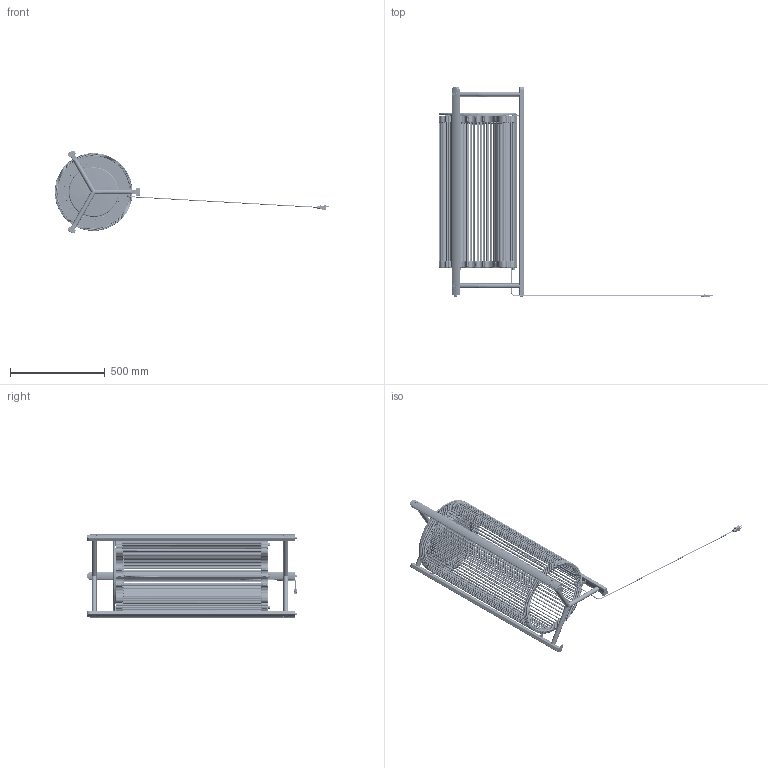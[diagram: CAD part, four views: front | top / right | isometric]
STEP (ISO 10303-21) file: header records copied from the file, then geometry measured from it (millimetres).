
FILE_DESCRIPTION (( 'STEP AP203' ), '1' );
FILE_NAME ('KANDO M-111 37802309300U.STEP', '2023-07-27T07:39:57', ( '' ), ( '' ), 'SwSTEP 2.0', 'SolidWorks 2019', '' );
FILE_SCHEMA (( 'CONFIG_CONTROL_DESIGN' ));
Length unit declared in the file: millimetre
Products named in the file (45): D965-412A2; 378_037; 378_031; 908-023SOLO CLAVIJA; 378_036; SUB-378 MASTIL 1100 SIMPLE; SUB-378 SOLDADURA SOPORTE PANTALLA; 378_101; 378_033; SUB-378 MASTIL 1100 LOGO; 378_029; 378_027; insert_41_tbh080h130 m8x13; 378_413; SUB-378 ASA Y SOPORTE INFERIOR; 378_034; 378_060; 378-412; 378_028; 378-407; 378-XXX PAQUETE OPTICO CV_CC; 378_CABLE 1100; 378_026; D965-410A2; TRAMA PANTALLA 800; D7991-58; 914-026; 378-409; 914-052; 378-401; 378-410; 378_023; 378_048; D913-36A2; KANDO M-111 37802309300U; 378_061; 378_044; 378_032; insert_41_tbh050h100 m5x10
Assembly tree (118 placements, depth 4):
  KANDO M-111 37802309300U
    SUB-378 MASTIL 1100 LOGO
      378_027
      SUB-378 SOLDADURA SOPORTE PANTALLA
        378_029
        378_031
      SUB-378 SOLDADURA SOPORTE PANTALLA
        378_029
        378_031
      insert_41_tbh050h100 m5x10  x4
      insert_41_tbh080h130 m8x13
      D7991-58  x4
      378_028
      378_023
      378_032
      378_036  x2
    SUB-378 MASTIL 1100 SIMPLE
      378_026
      SUB-378 SOLDADURA SOPORTE PANTALLA
        378_029
        378_031
      SUB-378 SOLDADURA SOPORTE PANTALLA
        378_029
        378_031
      insert_41_tbh050h100 m5x10  x4
      insert_41_tbh080h130 m8x13
      D7991-58  x4
      378_028
      378_032
      378_036  x2
    SUB-378 MASTIL 1100 SIMPLE
      378_026
      SUB-378 SOLDADURA SOPORTE PANTALLA
        378_029
        378_031
      SUB-378 SOLDADURA SOPORTE PANTALLA
        378_029
        378_031
      insert_41_tbh050h100 m5x10  x4
      insert_41_tbh080h130 m8x13
      D7991-58  x4
      378_028
      378_032
      378_036  x2
    SUB-378 ASA Y SOPORTE INFERIOR
      378_033
      378_034  x3
      378_037  x3
    378_044  x3
    378_CABLE 1100
    378_037  x3
    378_048
    378_060  x3
    D913-36A2  x3
    378_413  x3
    378_061  x2
    914-026  x2
    378_101
    TRAMA PANTALLA 800
    378-XXX PAQUETE OPTICO CV_CC
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Bounding box: 1447.04 x 1111.23 x 437.38 mm (x, y, z)
Volume: 7038108.4 mm3; surface area: 3614631.6 mm2
Topology: 476 solids, 479 shells, 13617 faces, 34385 edges, 19884 vertices
Faces by surface type: cylinder 5658, plane 3961, sphere 2126, cone 1468, bspline 304, torus 100
Entity records: 293761 total; most frequent: CARTESIAN_POINT 87879, ORIENTED_EDGE 43002, DIRECTION 42125, EDGE_CURVE 21507, AXIS2_PLACEMENT_3D 17266, VERTEX_POINT 12711, EDGE_LOOP 9480, FACE_OUTER_BOUND 9136
